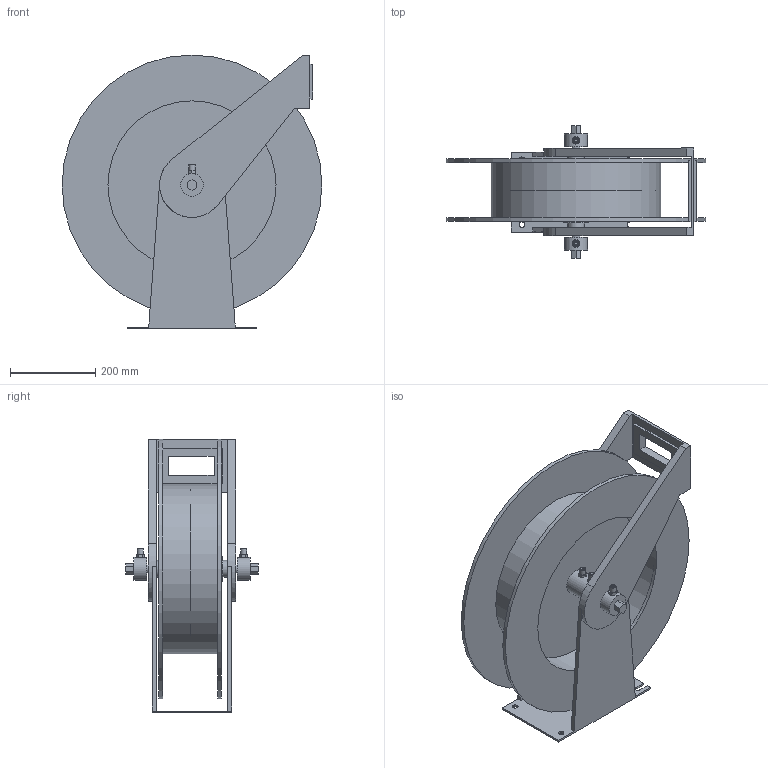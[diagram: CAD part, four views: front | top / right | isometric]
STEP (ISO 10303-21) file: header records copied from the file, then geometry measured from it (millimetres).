
FILE_DESCRIPTION( ( 'Unknown' ), '1' );
FILE_NAME( 'J:/NPD/RE 12893 3D WEB MODELS/80000 SERIES/TW80000 OLPT SW.stp', 'Unknown', ( 'Unknown' ), ( 'Unknown' ), 'PSStep 10.1', 'Unknown', ' ' );
FILE_SCHEMA( ( 'AUTOMOTIVE_DESIGN { 1 0 10303 214 1 1 1 1 }' ) );
Length unit declared in the file: millimetre
Products named in the file (1): 1
Bounding box: 609.6 x 310.54 x 642.72 mm (x, y, z)
Volume: 16107701.5 mm3; surface area: 1859910.1 mm2
Topology: 1 solids, 1 shells, 135 faces, 329 edges, 222 vertices
Faces by surface type: plane 104, cylinder 27, cone 4
Full cylindrical faces by diameter (mm): 7.137 x4, 13.106 x2, 14.287 x6, 18.974 x2, 40.056 x2, 53.975 x2, 58.674 x1, 394.564 x1, 397.561 x1, 609.6 x2
Entity records: 4996 total; most frequent: CARTESIAN_POINT 810, DIRECTION 626, ORIENTED_EDGE 580, EDGE_CURVE 290, LINE 222, VECTOR 222, VERTEX_POINT 210, AXIS2_PLACEMENT_3D 202
